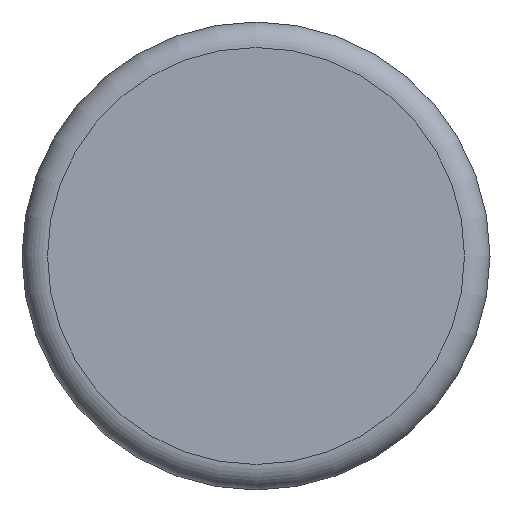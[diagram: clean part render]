
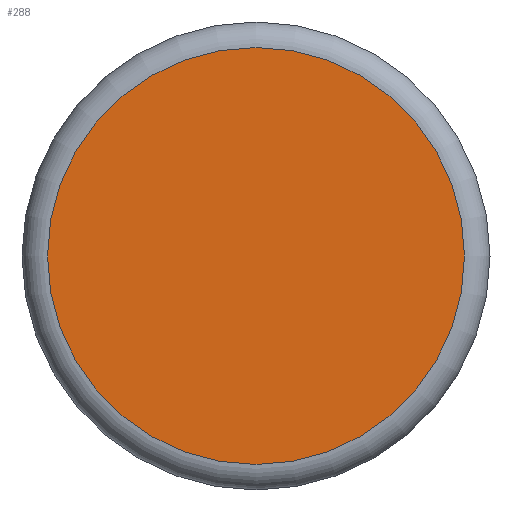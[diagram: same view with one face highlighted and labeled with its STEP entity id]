
A CAD part, left-side view. The second image highlights one B-rep face of the part: STEP entity #288.
In plain terms, the highlighted planar face has unit normal (-1, 0, 0).
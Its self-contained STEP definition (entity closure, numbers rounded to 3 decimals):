
#69 = PLANE ( 'NONE',  #268 ) ;
#70 = DIRECTION ( 'NONE',  ( 1., 0., 0. ) ) ;
#75 = VERTEX_POINT ( 'NONE', #79 ) ;
#79 = CARTESIAN_POINT ( 'NONE',  ( -206., 0., -24.5 ) ) ;
#119 = CARTESIAN_POINT ( 'NONE',  ( -206., 0., 0. ) ) ;
#192 = CARTESIAN_POINT ( 'NONE',  ( -206., 0., 0. ) ) ;
#195 = EDGE_LOOP ( 'NONE', ( #332 ) ) ;
#213 = DIRECTION ( 'NONE',  ( -1., 0., 0. ) ) ;
#218 = DIRECTION ( 'NONE',  ( 0., 0., -1. ) ) ;
#220 = FACE_OUTER_BOUND ( 'NONE', #195, .T. ) ;
#229 = EDGE_CURVE ( 'NONE', #75, #75, #248, .T. ) ;
#248 = CIRCLE ( 'NONE', #252, 24.5 ) ;
#252 = AXIS2_PLACEMENT_3D ( 'NONE', #192, #213, #218 ) ;
#268 = AXIS2_PLACEMENT_3D ( 'NONE', #119, #70, #283 ) ;
#283 = DIRECTION ( 'NONE',  ( 0., 0., -1. ) ) ;
#288 = ADVANCED_FACE ( 'NONE', ( #220 ), #69, .F. ) ;
#332 = ORIENTED_EDGE ( 'NONE', *, *, #229, .T. ) ;
